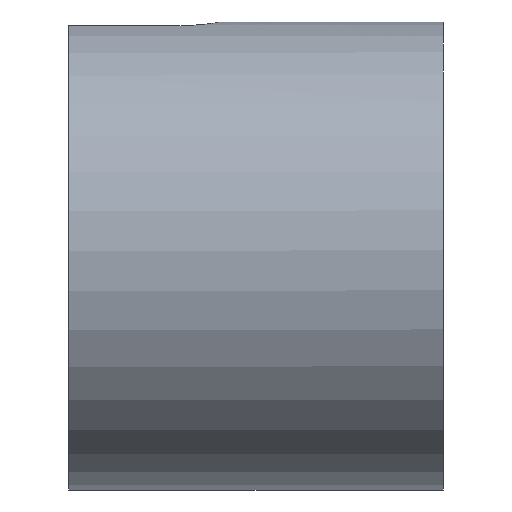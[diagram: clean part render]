
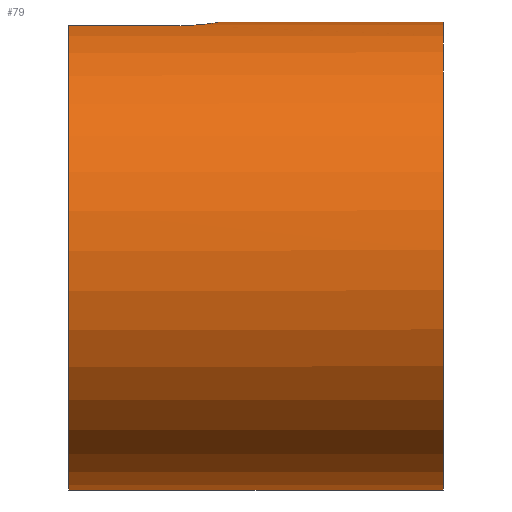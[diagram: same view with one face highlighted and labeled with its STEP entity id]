
A CAD part, front view. The second image highlights one B-rep face of the part: STEP entity #79.
In plain terms, the highlighted cylindrical face has radius 20 mm (diameter 40 mm), a partial arc.
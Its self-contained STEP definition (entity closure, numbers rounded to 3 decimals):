
#79 = ADVANCED_FACE( '', ( #94 ), #95, .T. );
#94 = FACE_OUTER_BOUND( '', #114, .T. );
#95 = CYLINDRICAL_SURFACE( '', #115, 20. );
#114 = EDGE_LOOP( '', ( #158, #159, #160, #161, #162, #163, #164, #165 ) );
#115 = AXIS2_PLACEMENT_3D( '', #166, #167, #168 );
#158 = ORIENTED_EDGE( '', *, *, #220, .F. );
#159 = ORIENTED_EDGE( '', *, *, #219, .T. );
#160 = ORIENTED_EDGE( '', *, *, #215, .F. );
#161 = ORIENTED_EDGE( '', *, *, #221, .F. );
#162 = ORIENTED_EDGE( '', *, *, #222, .T. );
#163 = ORIENTED_EDGE( '', *, *, #223, .T. );
#164 = ORIENTED_EDGE( '', *, *, #224, .T. );
#165 = ORIENTED_EDGE( '', *, *, #205, .F. );
#166 = CARTESIAN_POINT( '', ( -60., 0., 0. ) );
#167 = DIRECTION( '', ( 1., 0., 0. ) );
#168 = DIRECTION( '', ( 0., 0., 1. ) );
#205 = EDGE_CURVE( '', #228, #231, #232, .T. );
#215 = EDGE_CURVE( '', #249, #250, #251, .F. );
#219 = EDGE_CURVE( '', #254, #250, #256, .T. );
#220 = EDGE_CURVE( '', #254, #228, #257, .T. );
#221 = EDGE_CURVE( '', #258, #249, #259, .T. );
#222 = EDGE_CURVE( '', #258, #260, #261, .F. );
#223 = EDGE_CURVE( '', #260, #262, #263, .T. );
#224 = EDGE_CURVE( '', #262, #231, #264, .T. );
#228 = VERTEX_POINT( '', #268 );
#231 = VERTEX_POINT( '', #272 );
#232 = CIRCLE( '', #273, 20. );
#249 = VERTEX_POINT( '', #348 );
#250 = VERTEX_POINT( '', #349 );
#251 = LINE( '', #350, #351 );
#254 = VERTEX_POINT( '', #356 );
#256 = CIRCLE( '', #359, 20. );
#257 = LINE( '', #360, #361 );
#258 = VERTEX_POINT( '', #362 );
#259 = CIRCLE( '', #363, 20. );
#260 = VERTEX_POINT( '', #364 );
#261 = LINE( '', #365, #366 );
#262 = VERTEX_POINT( '', #367 );
#263 = B_SPLINE_CURVE_WITH_KNOTS( '', 3, ( #368, #369, #370, #371, #372, #373, #374, #375, #376, #377, #378, #379, #380, #381, #382, #383, #384, #385, #386, #387, #388, #389, #390, #391, #392, #393, #394, #395, #396, #397, #398, #399, #400, #401 ), .UNSPECIFIED., .F., .F., ( 4, 2, 2, 2, 2, 2, 2, 2, 2, 2, 2, 2, 2, 2, 2, 2, 4 ), ( 0., 0.001, 0.001, 0.002, 0.003, 0.003, 0.004, 0.005, 0.005, 0.006, 0.007, 0.008, 0.008, 0.009, 0.01, 0.01, 0.011 ), .UNSPECIFIED. );
#264 = LINE( '', #402, #403 );
#268 = CARTESIAN_POINT( '', ( -32., -1., -19.975 ) );
#272 = CARTESIAN_POINT( '', ( -32., -3.5, 19.691 ) );
#273 = AXIS2_PLACEMENT_3D( '', #411, #412, #413 );
#348 = CARTESIAN_POINT( '', ( -32., 1., -19.975 ) );
#349 = CARTESIAN_POINT( '', ( 0., 1., -19.975 ) );
#350 = CARTESIAN_POINT( '', ( -60., 1., -19.975 ) );
#351 = VECTOR( '', #424, 1000. );
#356 = CARTESIAN_POINT( '', ( 0., -1., -19.975 ) );
#359 = AXIS2_PLACEMENT_3D( '', #428, #429, #430 );
#360 = CARTESIAN_POINT( '', ( -60., -1., -19.975 ) );
#361 = VECTOR( '', #431, 1000. );
#362 = CARTESIAN_POINT( '', ( -32., 3.5, 19.691 ) );
#363 = AXIS2_PLACEMENT_3D( '', #432, #433, #434 );
#364 = CARTESIAN_POINT( '', ( -22.5, 3.5, 19.691 ) );
#365 = CARTESIAN_POINT( '', ( -60., 3.5, 19.691 ) );
#366 = VECTOR( '', #435, 1000. );
#367 = CARTESIAN_POINT( '', ( -22.5, -3.5, 19.691 ) );
#368 = CARTESIAN_POINT( '', ( -22.5, 3.5, 19.691 ) );
#369 = CARTESIAN_POINT( '', ( -22.268, 3.5, 19.691 ) );
#370 = CARTESIAN_POINT( '', ( -22.041, 3.477, 19.695 ) );
#371 = CARTESIAN_POINT( '', ( -21.593, 3.388, 19.711 ) );
#372 = CARTESIAN_POINT( '', ( -21.37, 3.321, 19.723 ) );
#373 = CARTESIAN_POINT( '', ( -20.947, 3.145, 19.751 ) );
#374 = CARTESIAN_POINT( '', ( -20.746, 3.037, 19.768 ) );
#375 = CARTESIAN_POINT( '', ( -20.366, 2.783, 19.806 ) );
#376 = CARTESIAN_POINT( '', ( -20.186, 2.636, 19.826 ) );
#377 = CARTESIAN_POINT( '', ( -19.864, 2.314, 19.866 ) );
#378 = CARTESIAN_POINT( '', ( -19.719, 2.138, 19.886 ) );
#379 = CARTESIAN_POINT( '', ( -19.463, 1.756, 19.924 ) );
#380 = CARTESIAN_POINT( '', ( -19.355, 1.553, 19.941 ) );
#381 = CARTESIAN_POINT( '', ( -19.18, 1.132, 19.969 ) );
#382 = CARTESIAN_POINT( '', ( -19.113, 0.911, 19.981 ) );
#383 = CARTESIAN_POINT( '', ( -19.023, 0.459, 19.996 ) );
#384 = CARTESIAN_POINT( '', ( -19., 0.231, 20. ) );
#385 = CARTESIAN_POINT( '', ( -19., -0.226, 20. ) );
#386 = CARTESIAN_POINT( '', ( -19.023, -0.458, 19.996 ) );
#387 = CARTESIAN_POINT( '', ( -19.112, -0.908, 19.981 ) );
#388 = CARTESIAN_POINT( '', ( -19.178, -1.126, 19.969 ) );
#389 = CARTESIAN_POINT( '', ( -19.354, -1.55, 19.941 ) );
#390 = CARTESIAN_POINT( '', ( -19.463, -1.755, 19.924 ) );
#391 = CARTESIAN_POINT( '', ( -19.716, -2.133, 19.887 ) );
#392 = CARTESIAN_POINT( '', ( -19.861, -2.311, 19.867 ) );
#393 = CARTESIAN_POINT( '', ( -20.186, -2.636, 19.826 ) );
#394 = CARTESIAN_POINT( '', ( -20.363, -2.781, 19.806 ) );
#395 = CARTESIAN_POINT( '', ( -20.741, -3.034, 19.769 ) );
#396 = CARTESIAN_POINT( '', ( -20.946, -3.144, 19.751 ) );
#397 = CARTESIAN_POINT( '', ( -21.369, -3.32, 19.723 ) );
#398 = CARTESIAN_POINT( '', ( -21.587, -3.387, 19.711 ) );
#399 = CARTESIAN_POINT( '', ( -22.036, -3.477, 19.696 ) );
#400 = CARTESIAN_POINT( '', ( -22.268, -3.5, 19.691 ) );
#401 = CARTESIAN_POINT( '', ( -22.5, -3.5, 19.691 ) );
#402 = CARTESIAN_POINT( '', ( -60., -3.5, 19.691 ) );
#403 = VECTOR( '', #436, 1000. );
#411 = CARTESIAN_POINT( '', ( -32., 0., 0. ) );
#412 = DIRECTION( '', ( -1., 0., 0. ) );
#413 = DIRECTION( '', ( 0., 0., 1. ) );
#424 = DIRECTION( '', ( -1., 0., 0. ) );
#428 = CARTESIAN_POINT( '', ( 0., 0., 0. ) );
#429 = DIRECTION( '', ( -1., 0., 0. ) );
#430 = DIRECTION( '', ( 0., 0., 1. ) );
#431 = DIRECTION( '', ( -1., 0., 0. ) );
#432 = CARTESIAN_POINT( '', ( -32., 0., 0. ) );
#433 = DIRECTION( '', ( -1., 0., 0. ) );
#434 = DIRECTION( '', ( 0., 0., 1. ) );
#435 = DIRECTION( '', ( -1., 0., 0. ) );
#436 = DIRECTION( '', ( -1., 0., 0. ) );
